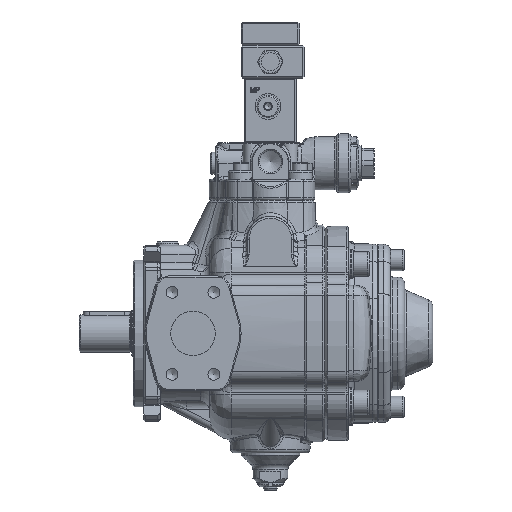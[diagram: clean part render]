
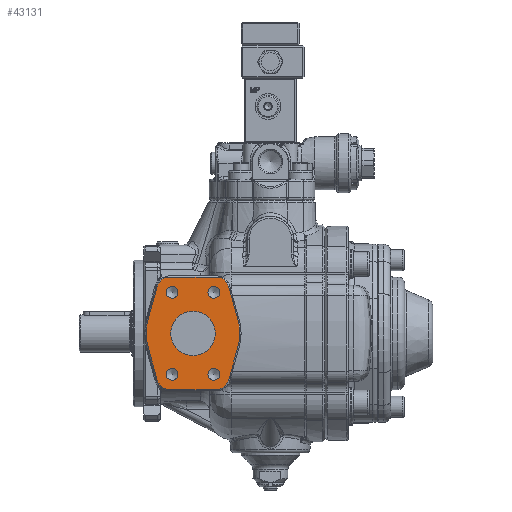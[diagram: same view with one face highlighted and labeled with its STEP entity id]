
A CAD part, left-side view. The second image highlights one B-rep face of the part: STEP entity #43131.
In plain terms, the highlighted planar face has unit normal (-1, 0, 0).
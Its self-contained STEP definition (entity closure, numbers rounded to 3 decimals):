
#1252=FACE_BOUND('',#5880,.T.);
#1253=FACE_BOUND('',#5881,.T.);
#1254=FACE_BOUND('',#5882,.T.);
#1255=FACE_BOUND('',#5883,.T.);
#1256=FACE_BOUND('',#5884,.T.);
#1733=PLANE('',#46448);
#3325=FACE_OUTER_BOUND('',#5879,.T.);
#5879=EDGE_LOOP('',(#30323,#30324,#30325,#30326,#30327,#30328,#30329,#30330,
#30331,#30332,#30333,#30334));
#5880=EDGE_LOOP('',(#30335));
#5881=EDGE_LOOP('',(#30336,#30337));
#5882=EDGE_LOOP('',(#30338,#30339));
#5883=EDGE_LOOP('',(#30340,#30341));
#5884=EDGE_LOOP('',(#30342,#30343));
#8585=CIRCLE('',#46413,11.);
#8587=CIRCLE('',#46417,40.);
#8590=CIRCLE('',#46422,11.);
#8592=CIRCLE('',#46426,11.);
#8594=CIRCLE('',#46430,40.);
#8596=CIRCLE('',#46434,11.);
#8601=CIRCLE('',#46449,19.);
#8602=CIRCLE('',#46450,5.053);
#8603=CIRCLE('',#46451,5.053);
#8604=CIRCLE('',#46452,5.053);
#8605=CIRCLE('',#46453,5.053);
#8606=CIRCLE('',#46454,5.053);
#8607=CIRCLE('',#46455,5.053);
#8608=CIRCLE('',#46456,5.053);
#8609=CIRCLE('',#46457,5.053);
#11895=LINE('',#67355,#14475);
#11900=LINE('',#67369,#14480);
#11904=LINE('',#67383,#14484);
#11908=LINE('',#67395,#14488);
#11912=LINE('',#67407,#14492);
#11916=LINE('',#67419,#14496);
#14475=VECTOR('',#53126,10.);
#14480=VECTOR('',#53139,10.);
#14484=VECTOR('',#53153,10.);
#14488=VECTOR('',#53165,10.);
#14492=VECTOR('',#53177,10.);
#14496=VECTOR('',#53189,10.);
#17520=VERTEX_POINT('',#67352);
#17521=VERTEX_POINT('',#67354);
#17524=VERTEX_POINT('',#67361);
#17526=VERTEX_POINT('',#67367);
#17528=VERTEX_POINT('',#67373);
#17531=VERTEX_POINT('',#67381);
#17533=VERTEX_POINT('',#67387);
#17535=VERTEX_POINT('',#67393);
#17537=VERTEX_POINT('',#67399);
#17539=VERTEX_POINT('',#67405);
#17541=VERTEX_POINT('',#67411);
#17543=VERTEX_POINT('',#67417);
#17583=VERTEX_POINT('',#67625);
#17584=VERTEX_POINT('',#67627);
#17585=VERTEX_POINT('',#67628);
#17586=VERTEX_POINT('',#67631);
#17587=VERTEX_POINT('',#67632);
#17588=VERTEX_POINT('',#67635);
#17589=VERTEX_POINT('',#67636);
#17590=VERTEX_POINT('',#67639);
#17591=VERTEX_POINT('',#67640);
#22150=EDGE_CURVE('',#17520,#17521,#11895,.T.);
#22154=EDGE_CURVE('',#17524,#17520,#8585,.T.);
#22157=EDGE_CURVE('',#17526,#17524,#11900,.T.);
#22160=EDGE_CURVE('',#17528,#17526,#8587,.T.);
#22164=EDGE_CURVE('',#17531,#17528,#11904,.T.);
#22167=EDGE_CURVE('',#17533,#17531,#8590,.T.);
#22170=EDGE_CURVE('',#17535,#17533,#11908,.T.);
#22173=EDGE_CURVE('',#17537,#17535,#8592,.T.);
#22176=EDGE_CURVE('',#17539,#17537,#11912,.T.);
#22179=EDGE_CURVE('',#17541,#17539,#8594,.T.);
#22182=EDGE_CURVE('',#17543,#17541,#11916,.T.);
#22184=EDGE_CURVE('',#17521,#17543,#8596,.T.);
#22232=EDGE_CURVE('',#17583,#17583,#8601,.T.);
#22233=EDGE_CURVE('',#17584,#17585,#8602,.T.);
#22234=EDGE_CURVE('',#17585,#17584,#8603,.T.);
#22235=EDGE_CURVE('',#17586,#17587,#8604,.T.);
#22236=EDGE_CURVE('',#17587,#17586,#8605,.T.);
#22237=EDGE_CURVE('',#17588,#17589,#8606,.T.);
#22238=EDGE_CURVE('',#17589,#17588,#8607,.T.);
#22239=EDGE_CURVE('',#17590,#17591,#8608,.T.);
#22240=EDGE_CURVE('',#17591,#17590,#8609,.T.);
#30323=ORIENTED_EDGE('',*,*,#22150,.F.);
#30324=ORIENTED_EDGE('',*,*,#22154,.F.);
#30325=ORIENTED_EDGE('',*,*,#22157,.F.);
#30326=ORIENTED_EDGE('',*,*,#22160,.F.);
#30327=ORIENTED_EDGE('',*,*,#22164,.F.);
#30328=ORIENTED_EDGE('',*,*,#22167,.F.);
#30329=ORIENTED_EDGE('',*,*,#22170,.F.);
#30330=ORIENTED_EDGE('',*,*,#22173,.F.);
#30331=ORIENTED_EDGE('',*,*,#22176,.F.);
#30332=ORIENTED_EDGE('',*,*,#22179,.F.);
#30333=ORIENTED_EDGE('',*,*,#22182,.F.);
#30334=ORIENTED_EDGE('',*,*,#22184,.F.);
#30335=ORIENTED_EDGE('',*,*,#22232,.T.);
#30336=ORIENTED_EDGE('',*,*,#22233,.T.);
#30337=ORIENTED_EDGE('',*,*,#22234,.T.);
#30338=ORIENTED_EDGE('',*,*,#22235,.T.);
#30339=ORIENTED_EDGE('',*,*,#22236,.T.);
#30340=ORIENTED_EDGE('',*,*,#22237,.T.);
#30341=ORIENTED_EDGE('',*,*,#22238,.T.);
#30342=ORIENTED_EDGE('',*,*,#22239,.T.);
#30343=ORIENTED_EDGE('',*,*,#22240,.T.);
#43131=ADVANCED_FACE('',(#3325,#1252,#1253,#1254,#1255,#1256),#1733,.F.);
#46413=AXIS2_PLACEMENT_3D('',#67363,#53132,#53133);
#46417=AXIS2_PLACEMENT_3D('',#67375,#53144,#53145);
#46422=AXIS2_PLACEMENT_3D('',#67389,#53158,#53159);
#46426=AXIS2_PLACEMENT_3D('',#67401,#53170,#53171);
#46430=AXIS2_PLACEMENT_3D('',#67413,#53182,#53183);
#46434=AXIS2_PLACEMENT_3D('',#67422,#53193,#53194);
#46448=AXIS2_PLACEMENT_3D('',#67624,#53236,#53237);
#46449=AXIS2_PLACEMENT_3D('',#67626,#53238,#53239);
#46450=AXIS2_PLACEMENT_3D('',#67629,#53240,#53241);
#46451=AXIS2_PLACEMENT_3D('',#67630,#53242,#53243);
#46452=AXIS2_PLACEMENT_3D('',#67633,#53244,#53245);
#46453=AXIS2_PLACEMENT_3D('',#67634,#53246,#53247);
#46454=AXIS2_PLACEMENT_3D('',#67637,#53248,#53249);
#46455=AXIS2_PLACEMENT_3D('',#67638,#53250,#53251);
#46456=AXIS2_PLACEMENT_3D('',#67641,#53252,#53253);
#46457=AXIS2_PLACEMENT_3D('',#67642,#53254,#53255);
#53126=DIRECTION('',(0.,1.,0.));
#53132=DIRECTION('center_axis',(1.,0.,0.));
#53133=DIRECTION('ref_axis',(0.,-0.964,-0.267));
#53139=DIRECTION('',(0.,0.267,-0.964));
#53144=DIRECTION('center_axis',(1.,0.,0.));
#53145=DIRECTION('ref_axis',(0.,-0.964,0.267));
#53153=DIRECTION('',(0.,-0.267,-0.964));
#53158=DIRECTION('center_axis',(1.,0.,0.));
#53159=DIRECTION('ref_axis',(0.,0.,1.));
#53165=DIRECTION('',(0.,-1.,0.));
#53170=DIRECTION('center_axis',(1.,0.,0.));
#53171=DIRECTION('ref_axis',(0.,0.964,0.267));
#53177=DIRECTION('',(0.,-0.267,0.964));
#53182=DIRECTION('center_axis',(1.,0.,0.));
#53183=DIRECTION('ref_axis',(0.,0.964,-0.267));
#53189=DIRECTION('',(0.,0.267,0.964));
#53193=DIRECTION('center_axis',(1.,0.,0.));
#53194=DIRECTION('ref_axis',(0.,0.,-1.));
#53236=DIRECTION('center_axis',(1.,0.,0.));
#53237=DIRECTION('ref_axis',(0.,0.,-1.));
#53238=DIRECTION('center_axis',(1.,0.,0.));
#53239=DIRECTION('ref_axis',(0.,-1.,0.));
#53240=DIRECTION('center_axis',(1.,0.,0.));
#53241=DIRECTION('ref_axis',(0.,0.,1.));
#53242=DIRECTION('center_axis',(1.,0.,0.));
#53243=DIRECTION('ref_axis',(0.,0.,1.));
#53244=DIRECTION('center_axis',(1.,0.,0.));
#53245=DIRECTION('ref_axis',(0.,0.,1.));
#53246=DIRECTION('center_axis',(1.,0.,0.));
#53247=DIRECTION('ref_axis',(0.,0.,1.));
#53248=DIRECTION('center_axis',(1.,0.,0.));
#53249=DIRECTION('ref_axis',(0.,0.,1.));
#53250=DIRECTION('center_axis',(1.,0.,0.));
#53251=DIRECTION('ref_axis',(0.,0.,1.));
#53252=DIRECTION('center_axis',(1.,0.,0.));
#53253=DIRECTION('ref_axis',(0.,0.,1.));
#53254=DIRECTION('center_axis',(1.,0.,0.));
#53255=DIRECTION('ref_axis',(0.,0.,1.));
#67352=CARTESIAN_POINT('',(-98.542,9.928,-57.476));
#67354=CARTESIAN_POINT('',(-98.542,49.628,-57.476));
#67355=CARTESIAN_POINT('',(-98.542,19.853,-57.476));
#67361=CARTESIAN_POINT('',(-98.542,-0.673,-49.41));
#67363=CARTESIAN_POINT('Origin',(-98.542,9.928,-46.476));
#67367=CARTESIAN_POINT('',(-98.542,-8.772,-20.145));
#67369=CARTESIAN_POINT('',(-98.542,-8.772,-20.145));
#67373=CARTESIAN_POINT('',(-98.542,-8.772,1.194));
#67375=CARTESIAN_POINT('Origin',(-98.542,29.778,-9.476));
#67381=CARTESIAN_POINT('',(-98.542,-0.673,30.458));
#67383=CARTESIAN_POINT('',(-98.542,-4.723,15.826));
#67387=CARTESIAN_POINT('',(-98.542,9.928,38.524));
#67389=CARTESIAN_POINT('Origin',(-98.542,9.928,27.524));
#67393=CARTESIAN_POINT('',(-98.542,49.628,38.524));
#67395=CARTESIAN_POINT('',(-98.542,39.703,38.524));
#67399=CARTESIAN_POINT('',(-98.542,60.23,30.458));
#67401=CARTESIAN_POINT('Origin',(-98.542,49.628,27.524));
#67405=CARTESIAN_POINT('',(-98.542,68.329,1.194));
#67407=CARTESIAN_POINT('',(-98.542,68.329,1.194));
#67411=CARTESIAN_POINT('',(-98.542,68.329,-20.145));
#67413=CARTESIAN_POINT('Origin',(-98.542,29.778,-9.476));
#67417=CARTESIAN_POINT('',(-98.542,60.23,-49.41));
#67419=CARTESIAN_POINT('',(-98.542,64.279,-34.777));
#67422=CARTESIAN_POINT('Origin',(-98.542,49.628,-46.476));
#67624=CARTESIAN_POINT('Origin',(-98.542,29.778,-9.476));
#67625=CARTESIAN_POINT('',(-98.542,48.778,-9.476));
#67626=CARTESIAN_POINT('Origin',(-98.542,29.778,-9.476));
#67627=CARTESIAN_POINT('',(-98.542,47.628,-39.373));
#67628=CARTESIAN_POINT('',(-98.542,47.628,-49.479));
#67629=CARTESIAN_POINT('Origin',(-98.542,47.628,-44.426));
#67630=CARTESIAN_POINT('Origin',(-98.542,47.628,-44.426));
#67631=CARTESIAN_POINT('',(-98.542,11.928,30.527));
#67632=CARTESIAN_POINT('',(-98.542,11.928,20.421));
#67633=CARTESIAN_POINT('Origin',(-98.542,11.928,25.474));
#67634=CARTESIAN_POINT('Origin',(-98.542,11.928,25.474));
#67635=CARTESIAN_POINT('',(-98.542,47.628,30.527));
#67636=CARTESIAN_POINT('',(-98.542,47.628,20.421));
#67637=CARTESIAN_POINT('Origin',(-98.542,47.628,25.474));
#67638=CARTESIAN_POINT('Origin',(-98.542,47.628,25.474));
#67639=CARTESIAN_POINT('',(-98.542,11.928,-39.373));
#67640=CARTESIAN_POINT('',(-98.542,11.928,-49.479));
#67641=CARTESIAN_POINT('Origin',(-98.542,11.928,-44.426));
#67642=CARTESIAN_POINT('Origin',(-98.542,11.928,-44.426));
